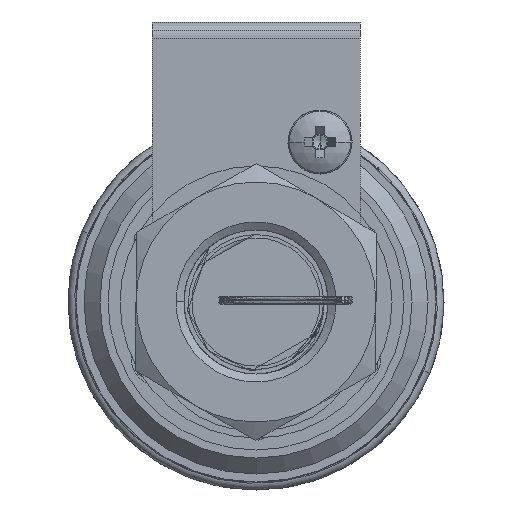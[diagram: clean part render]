
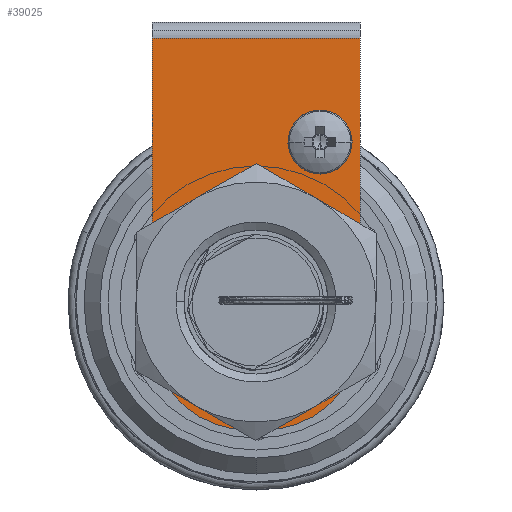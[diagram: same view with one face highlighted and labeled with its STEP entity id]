
A CAD part, front view. The second image highlights one B-rep face of the part: STEP entity #39025.
In plain terms, the highlighted planar face has unit normal (0, -1, 0).
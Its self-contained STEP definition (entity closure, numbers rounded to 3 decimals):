
#439 = EDGE_CURVE ( 'NONE', #10203, #36443, #20714, .T. ) ;
#898 = CIRCLE ( 'NONE', #16070, 2.25 ) ;
#1342 = AXIS2_PLACEMENT_3D ( 'NONE', #45727, #14348, #31898 ) ;
#4397 = VERTEX_POINT ( 'NONE', #29091 ) ;
#4415 = VERTEX_POINT ( 'NONE', #5149 ) ;
#5149 = CARTESIAN_POINT ( 'NONE',  ( 14., -1., -50. ) ) ;
#5203 = CARTESIAN_POINT ( 'NONE',  ( 26., -1., 0. ) ) ;
#7240 = AXIS2_PLACEMENT_3D ( 'NONE', #38778, #17340, #28391 ) ;
#8155 = CARTESIAN_POINT ( 'NONE',  ( 12., -1., -50. ) ) ;
#8254 = CARTESIAN_POINT ( 'NONE',  ( 26., -1., 0. ) ) ;
#9326 = CARTESIAN_POINT ( 'NONE',  ( 14., -1., -38. ) ) ;
#9363 = FACE_BOUND ( 'NONE', #35343, .T. ) ;
#9499 = VECTOR ( 'NONE', #14139, 1000. ) ;
#10087 = CARTESIAN_POINT ( 'NONE',  ( 26., -1., -1. ) ) ;
#10203 = VERTEX_POINT ( 'NONE', #36836 ) ;
#10750 = ORIENTED_EDGE ( 'NONE', *, *, #39797, .F. ) ;
#10969 = DIRECTION ( 'NONE',  ( 0., -1., 0. ) ) ;
#12016 = DIRECTION ( 'NONE',  ( 0., 0., 1. ) ) ;
#12104 = VERTEX_POINT ( 'NONE', #10087 ) ;
#12510 = VECTOR ( 'NONE', #36781, 1000. ) ;
#12864 = EDGE_CURVE ( 'NONE', #22669, #24216, #14537, .T. ) ;
#12918 = DIRECTION ( 'NONE',  ( 0., 0., 1. ) ) ;
#13059 = CARTESIAN_POINT ( 'NONE',  ( 0., -1., 0. ) ) ;
#13440 = CARTESIAN_POINT ( 'NONE',  ( 21., -1., -11.75 ) ) ;
#13493 = EDGE_CURVE ( 'NONE', #4415, #39722, #34488, .T. ) ;
#14139 = DIRECTION ( 'NONE',  ( -1., 0., 0. ) ) ;
#14348 = DIRECTION ( 'NONE',  ( 0., -1., 0. ) ) ;
#14377 = EDGE_LOOP ( 'NONE', ( #28490, #40105 ) ) ;
#14537 = CIRCLE ( 'NONE', #1342, 2.25 ) ;
#14816 = CIRCLE ( 'NONE', #39019, 12. ) ;
#16070 = AXIS2_PLACEMENT_3D ( 'NONE', #43285, #10969, #43441 ) ;
#17340 = DIRECTION ( 'NONE',  ( 0., -1., 0. ) ) ;
#20207 = EDGE_CURVE ( 'NONE', #4397, #20502, #32099, .T. ) ;
#20221 = EDGE_CURVE ( 'NONE', #20502, #4397, #44906, .T. ) ;
#20502 = VERTEX_POINT ( 'NONE', #33772 ) ;
#20714 = LINE ( 'NONE', #13059, #37948 ) ;
#21402 = CARTESIAN_POINT ( 'NONE',  ( 13., -1., -34. ) ) ;
#21576 = DIRECTION ( 'NONE',  ( 0., 0., 1. ) ) ;
#22669 = VERTEX_POINT ( 'NONE', #44625 ) ;
#23046 = AXIS2_PLACEMENT_3D ( 'NONE', #9326, #34158, #12918 ) ;
#23176 = PLANE ( 'NONE',  #24701 ) ;
#23254 = ORIENTED_EDGE ( 'NONE', *, *, #13493, .F. ) ;
#24216 = VERTEX_POINT ( 'NONE', #13440 ) ;
#24701 = AXIS2_PLACEMENT_3D ( 'NONE', #8254, #36965, #12016 ) ;
#24935 = EDGE_CURVE ( 'NONE', #12104, #10203, #39733, .T. ) ;
#26209 = ORIENTED_EDGE ( 'NONE', *, *, #34266, .T. ) ;
#27955 = DIRECTION ( 'NONE',  ( 0., 0., -1. ) ) ;
#28391 = DIRECTION ( 'NONE',  ( 0., 0., -1. ) ) ;
#28490 = ORIENTED_EDGE ( 'NONE', *, *, #12864, .F. ) ;
#28528 = CARTESIAN_POINT ( 'NONE',  ( 26., -1., -38. ) ) ;
#29091 = CARTESIAN_POINT ( 'NONE',  ( 13., -1., -43. ) ) ;
#29293 = LINE ( 'NONE', #5203, #30392 ) ;
#29919 = FACE_BOUND ( 'NONE', #14377, .T. ) ;
#30365 = DIRECTION ( 'NONE',  ( 0., 0., -1. ) ) ;
#30392 = VECTOR ( 'NONE', #30365, 1000. ) ;
#31052 = FACE_OUTER_BOUND ( 'NONE', #38170, .T. ) ;
#31853 = CARTESIAN_POINT ( 'NONE',  ( 0., -1., -38. ) ) ;
#31898 = DIRECTION ( 'NONE',  ( 0., 0., -1. ) ) ;
#31967 = DIRECTION ( 'NONE',  ( 0., 0., -1. ) ) ;
#32041 = EDGE_CURVE ( 'NONE', #36443, #39722, #14816, .T. ) ;
#32099 = CIRCLE ( 'NONE', #44767, 9. ) ;
#32242 = EDGE_CURVE ( 'NONE', #24216, #22669, #898, .T. ) ;
#33772 = CARTESIAN_POINT ( 'NONE',  ( 13., -1., -25. ) ) ;
#34158 = DIRECTION ( 'NONE',  ( 0., -1., 0. ) ) ;
#34266 = EDGE_CURVE ( 'NONE', #4415, #38873, #37291, .T. ) ;
#34488 = LINE ( 'NONE', #42417, #9499 ) ;
#35343 = EDGE_LOOP ( 'NONE', ( #36533, #42207 ) ) ;
#35533 = DIRECTION ( 'NONE',  ( 0., -1., 0. ) ) ;
#35684 = CARTESIAN_POINT ( 'NONE',  ( 12., -1., -38. ) ) ;
#36084 = ORIENTED_EDGE ( 'NONE', *, *, #24935, .T. ) ;
#36443 = VERTEX_POINT ( 'NONE', #31853 ) ;
#36533 = ORIENTED_EDGE ( 'NONE', *, *, #20207, .F. ) ;
#36614 = ORIENTED_EDGE ( 'NONE', *, *, #32041, .T. ) ;
#36781 = DIRECTION ( 'NONE',  ( -1., 0., 0. ) ) ;
#36836 = CARTESIAN_POINT ( 'NONE',  ( 0., -1., -1. ) ) ;
#36965 = DIRECTION ( 'NONE',  ( 0., 1., 0. ) ) ;
#37291 = CIRCLE ( 'NONE', #23046, 12. ) ;
#37572 = ORIENTED_EDGE ( 'NONE', *, *, #439, .T. ) ;
#37948 = VECTOR ( 'NONE', #27955, 1000. ) ;
#38170 = EDGE_LOOP ( 'NONE', ( #37572, #36614, #23254, #26209, #10750, #36084 ) ) ;
#38778 = CARTESIAN_POINT ( 'NONE',  ( 13., -1., -34. ) ) ;
#38873 = VERTEX_POINT ( 'NONE', #28528 ) ;
#39019 = AXIS2_PLACEMENT_3D ( 'NONE', #35684, #35533, #21576 ) ;
#39025 = ADVANCED_FACE ( 'NONE', ( #29919, #9363, #31052 ), #23176, .F. ) ;
#39722 = VERTEX_POINT ( 'NONE', #8155 ) ;
#39733 = LINE ( 'NONE', #40081, #12510 ) ;
#39797 = EDGE_CURVE ( 'NONE', #12104, #38873, #29293, .T. ) ;
#40081 = CARTESIAN_POINT ( 'NONE',  ( 26., -1., -1. ) ) ;
#40105 = ORIENTED_EDGE ( 'NONE', *, *, #32242, .F. ) ;
#42207 = ORIENTED_EDGE ( 'NONE', *, *, #20221, .F. ) ;
#42417 = CARTESIAN_POINT ( 'NONE',  ( 26., -1., -50. ) ) ;
#43285 = CARTESIAN_POINT ( 'NONE',  ( 21., -1., -14. ) ) ;
#43441 = DIRECTION ( 'NONE',  ( 0., 0., -1. ) ) ;
#44625 = CARTESIAN_POINT ( 'NONE',  ( 21., -1., -16.25 ) ) ;
#44767 = AXIS2_PLACEMENT_3D ( 'NONE', #21402, #45940, #31967 ) ;
#44906 = CIRCLE ( 'NONE', #7240, 9. ) ;
#45727 = CARTESIAN_POINT ( 'NONE',  ( 21., -1., -14. ) ) ;
#45940 = DIRECTION ( 'NONE',  ( 0., -1., 0. ) ) ;
